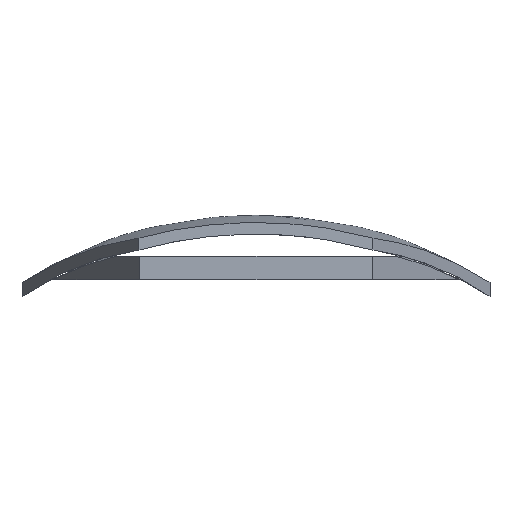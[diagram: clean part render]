
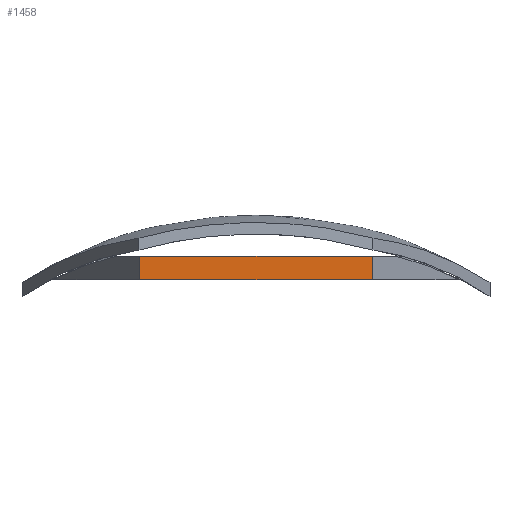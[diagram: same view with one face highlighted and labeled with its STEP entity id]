
A CAD part, left-side view. The second image highlights one B-rep face of the part: STEP entity #1458.
In plain terms, the highlighted planar face has unit normal (-1, 0, 0).
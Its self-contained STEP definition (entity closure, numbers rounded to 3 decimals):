
#1087 = VERTEX_POINT('',#1088);
#1088 = CARTESIAN_POINT('',(-34.468,19.9,64.));
#1094 = EDGE_CURVE('',#1087,#1095,#1097,.T.);
#1095 = VERTEX_POINT('',#1096);
#1096 = CARTESIAN_POINT('',(-34.468,-19.9,64.));
#1097 = LINE('',#1098,#1099);
#1098 = CARTESIAN_POINT('',(-34.468,19.9,64.));
#1099 = VECTOR('',#1100,1.);
#1100 = DIRECTION('',(0.,-1.,0.));
#1439 = EDGE_CURVE('',#1095,#1440,#1442,.T.);
#1440 = VERTEX_POINT('',#1441);
#1441 = CARTESIAN_POINT('',(-34.468,-19.9,68.));
#1442 = LINE('',#1443,#1444);
#1443 = CARTESIAN_POINT('',(-34.468,-19.9,64.));
#1444 = VECTOR('',#1445,1.);
#1445 = DIRECTION('',(0.,0.,1.));
#1458 = ADVANCED_FACE('',(#1459),#1477,.F.);
#1459 = FACE_BOUND('',#1460,.F.);
#1460 = EDGE_LOOP('',(#1461,#1469,#1475,#1476));
#1461 = ORIENTED_EDGE('',*,*,#1462,.T.);
#1462 = EDGE_CURVE('',#1087,#1463,#1465,.T.);
#1463 = VERTEX_POINT('',#1464);
#1464 = CARTESIAN_POINT('',(-34.468,19.9,68.));
#1465 = LINE('',#1466,#1467);
#1466 = CARTESIAN_POINT('',(-34.468,19.9,64.));
#1467 = VECTOR('',#1468,1.);
#1468 = DIRECTION('',(0.,0.,1.));
#1469 = ORIENTED_EDGE('',*,*,#1470,.T.);
#1470 = EDGE_CURVE('',#1463,#1440,#1471,.T.);
#1471 = LINE('',#1472,#1473);
#1472 = CARTESIAN_POINT('',(-34.468,19.9,68.));
#1473 = VECTOR('',#1474,1.);
#1474 = DIRECTION('',(0.,-1.,0.));
#1475 = ORIENTED_EDGE('',*,*,#1439,.F.);
#1476 = ORIENTED_EDGE('',*,*,#1094,.F.);
#1477 = PLANE('',#1478);
#1478 = AXIS2_PLACEMENT_3D('',#1479,#1480,#1481);
#1479 = CARTESIAN_POINT('',(-34.468,19.9,64.));
#1480 = DIRECTION('',(1.,0.,0.));
#1481 = DIRECTION('',(0.,-1.,0.));
